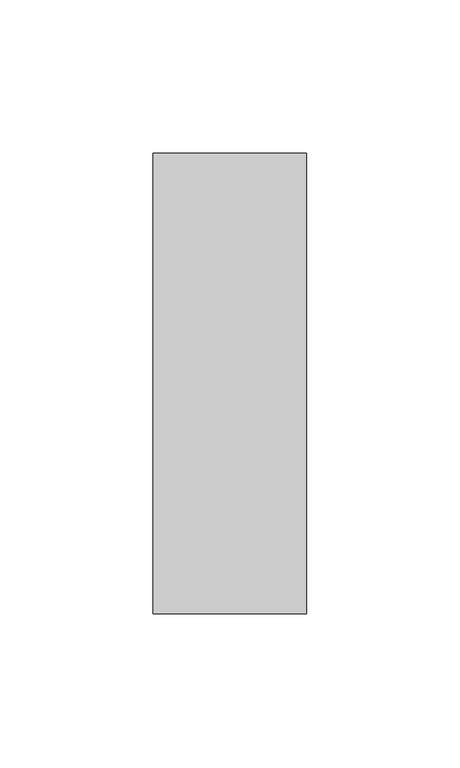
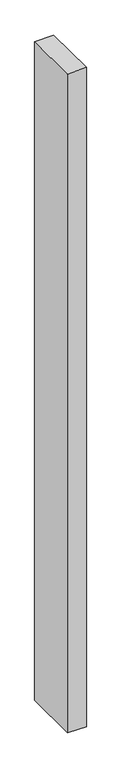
"""IFC4 building model written with IfcOpenShell, lengths in millimetres: member geometry, Прямоугольный импост : 50 x 150 мм."""

from ifc_helpers import new_model, si_unit, origin, place, context, project, spatial, faceted_brep, source, transform, mapped, element, save


def member_d06d70e5(model_context):
    return source(origin(), model_context, "Body", "Brep", [
        faceted_brep([(-25.0, 75.0, -1.0818856), (25.0, 75.0, -0.0805383), (25.0, 75.0, -1844.51324), (-25.0, 75.0, -1843.5869727), (-25.0, -75.0, 0.0805383), (-25.0, -75.0, -1843.1114865), (25.0, -75.0, 1.0818856), (25.0, -75.0, -1844.0377537)], [[[0, 1, 2, 3]], [[4, 0, 3, 5]], [[6, 4, 5, 7]], [[1, 6, 7, 2]], [[1, 0, 4, 6]], [[2, 7, 5, 3]]]),
    ])


if __name__ == "__main__":
    model = new_model("IFC4")
    model_context = context("Model", 3, world=origin())
    ifc_project = project(units=[si_unit("LENGTHUNIT", "METRE", prefix="MILLI")], contexts=[model_context])
    site = spatial("IfcSite", under=ifc_project)
    building = spatial("IfcBuilding", under=site)
    placement = place(None, origin())
    member_shape = member_d06d70e5(model_context)
    element("IfcMember", 1, ObjectType="Прямоугольный импост : 50 x 150 мм", at=placement, inside=building, context=model_context, shape_type="MappedRepresentation", body=[
        mapped(member_shape, transform((0.0, 0.0, 0.0), x_axis=(1.0, 0.0, 0.0), y_axis=(0.0, 1.0, 0.0), z_axis=(0.0, 0.0, 1.0))),
    ])
    save(model, "model.ifc")
